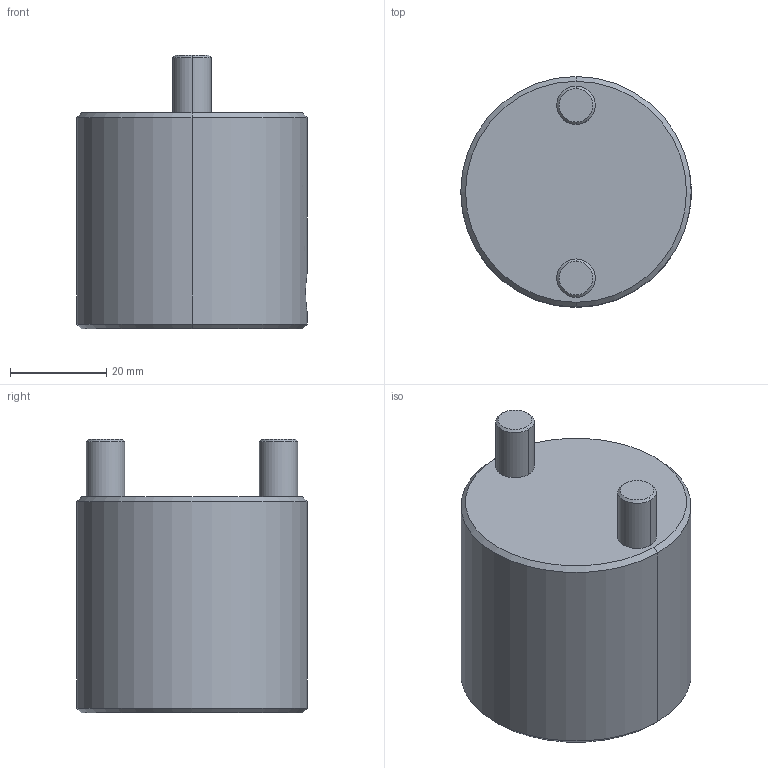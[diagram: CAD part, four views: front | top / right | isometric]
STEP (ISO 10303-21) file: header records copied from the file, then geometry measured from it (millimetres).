
FILE_DESCRIPTION((''),'2;1');
FILE_NAME('CS2025','2018-01-21T',('MANU'),(''),'PRO/ENGINEER BY PARAMETRIC TECHNOLOGY CORPORATION, 2012130','PRO/ENGINEER BY PARAMETRIC TECHNOLOGY CORPORATION, 2012130','');
FILE_SCHEMA(('CONFIG_CONTROL_DESIGN'));
Length unit declared in the file: millimetre
Products named in the file (1): CS2025
Bounding box: 48 x 48 x 57 mm (x, y, z)
Volume: 63458.6 mm3; surface area: 13932.3 mm2
Topology: 1 solids, 1 shells, 23 faces, 47 edges, 28 vertices
Faces by surface type: cylinder 10, cone 8, plane 5
Entity records: 755 total; most frequent: CARTESIAN_POINT 220, DIRECTION 109, ORIENTED_EDGE 94, EDGE_CURVE 47, AXIS2_PLACEMENT_3D 45, VERTEX_POINT 28, EDGE_LOOP 27, FACE_OUTER_BOUND 23
